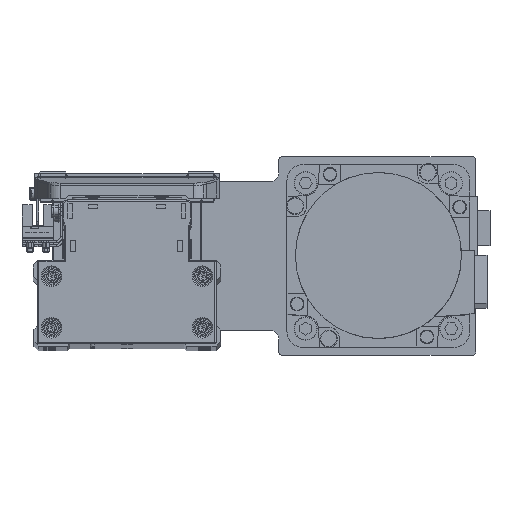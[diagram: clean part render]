
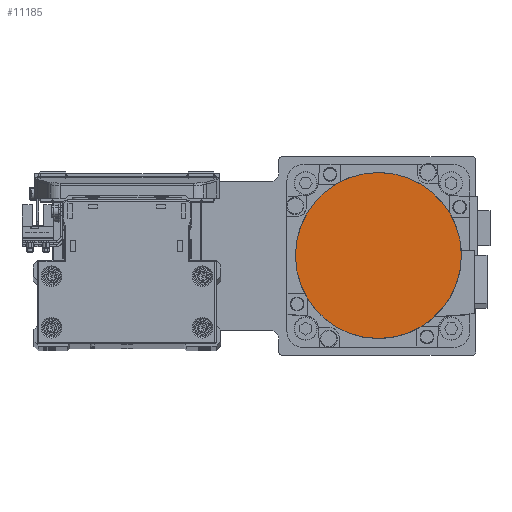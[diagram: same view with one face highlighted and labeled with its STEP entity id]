
A CAD part, top view. The second image highlights one B-rep face of the part: STEP entity #11185.
In plain terms, the highlighted planar face has unit normal (0, 0, 1) as drawn and (0, 0, -1) by its records, which use the part's own axes.
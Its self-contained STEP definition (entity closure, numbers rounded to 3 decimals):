
#690 = FACE_OUTER_BOUND ( 'NONE', #3003, .T. ) ;
#2972 = CIRCLE ( 'NONE', #25739, 36.3 ) ;
#3003 = EDGE_LOOP ( 'NONE', ( #36089, #24656 ) ) ;
#3938 = DIRECTION ( 'NONE',  ( 0., 0., 1. ) ) ;
#7584 = DIRECTION ( 'NONE',  ( 0., -1., 0. ) ) ;
#10027 = DIRECTION ( 'NONE',  ( 1., 0., 0. ) ) ;
#10231 = CARTESIAN_POINT ( 'NONE',  ( 0., 36.3, -122.2 ) ) ;
#11185 = ADVANCED_FACE ( 'NONE', ( #690 ), #13097, .F. ) ;
#12596 = EDGE_CURVE ( 'NONE', #39929, #37105, #2972, .T. ) ;
#13097 = PLANE ( 'NONE',  #25868 ) ;
#16360 = DIRECTION ( 'NONE',  ( 0., 1., 0. ) ) ;
#23066 = CARTESIAN_POINT ( 'NONE',  ( 0., 0., -122.2 ) ) ;
#24656 = ORIENTED_EDGE ( 'NONE', *, *, #12596, .F. ) ;
#25116 = EDGE_CURVE ( 'NONE', #37105, #39929, #32925, .T. ) ;
#25521 = CARTESIAN_POINT ( 'NONE',  ( 0., 0., -122.2 ) ) ;
#25739 = AXIS2_PLACEMENT_3D ( 'NONE', #23066, #35478, #7584 ) ;
#25868 = AXIS2_PLACEMENT_3D ( 'NONE', #25521, #37932, #10027 ) ;
#31842 = CARTESIAN_POINT ( 'NONE',  ( 0., 0., -122.2 ) ) ;
#32925 = CIRCLE ( 'NONE', #38138, 36.3 ) ;
#35478 = DIRECTION ( 'NONE',  ( 0., 0., 1. ) ) ;
#36089 = ORIENTED_EDGE ( 'NONE', *, *, #25116, .F. ) ;
#36133 = CARTESIAN_POINT ( 'NONE',  ( 0., -36.3, -122.2 ) ) ;
#37105 = VERTEX_POINT ( 'NONE', #10231 ) ;
#37932 = DIRECTION ( 'NONE',  ( 0., 0., 1. ) ) ;
#38138 = AXIS2_PLACEMENT_3D ( 'NONE', #31842, #3938, #16360 ) ;
#39929 = VERTEX_POINT ( 'NONE', #36133 ) ;
